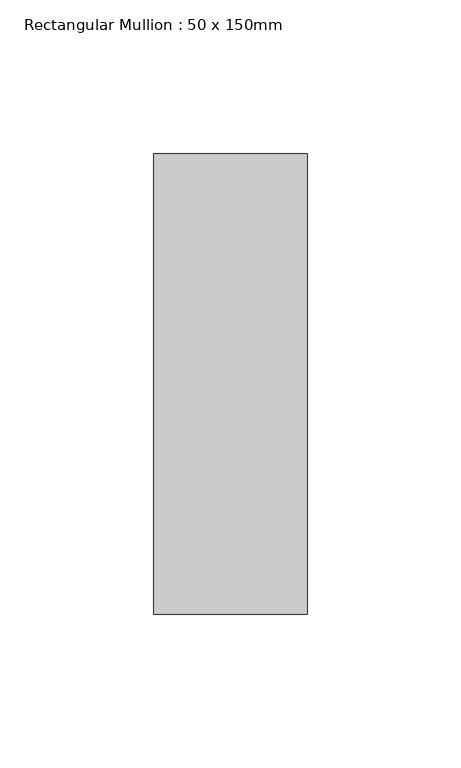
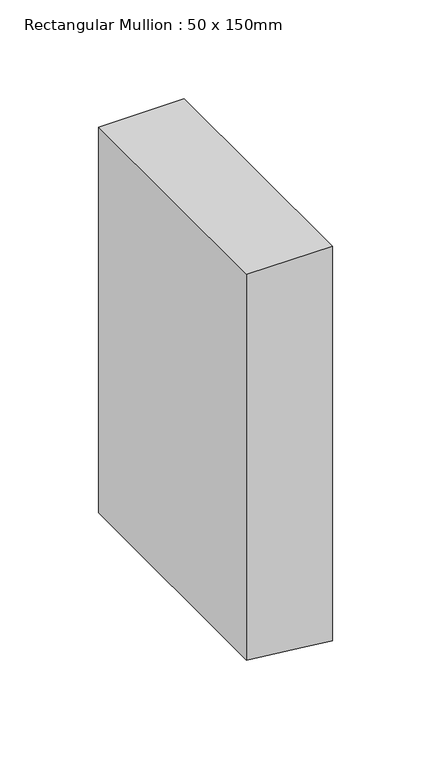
"""IFC4 building model written with IfcOpenShell, lengths in millimetres: member geometry, Rectangular Mullion : 50 x 150mm."""

from ifc_helpers import new_model, si_unit, frame, origin, place, context, project, spatial, polyline, outline, extrude, source, transform, mapped, element, save


def rectangular_mullion_50_x_150mm_b35b0433(model_context):
    return source(origin(), model_context, "Body", "SweptSolid", [
        extrude(outline(polyline([(0.0, 25.0), (0.0, -25.0), (-238.2593781, -25.0), (-241.7395374, 5.6423937), (-243.9380455, 25.0), (0.0, 25.0)])), frame((0.0, -75.0, 0.0), z_axis=(0.0, 1.0, 0.0), x_axis=(0.0, 0.0, 1.0)), (0.0, 0.0, 1.0), 150.0),
    ])


if __name__ == "__main__":
    model = new_model("IFC4")
    model_context = context("Model", 3, world=origin())
    ifc_project = project(units=[si_unit("LENGTHUNIT", "METRE", prefix="MILLI")], contexts=[model_context])
    site = spatial("IfcSite", under=ifc_project)
    building = spatial("IfcBuilding", under=site)
    placement = place(None, origin())
    rectangular_mullion_50_x_150mm_shape = rectangular_mullion_50_x_150mm_b35b0433(model_context)
    element("IfcMember", 1, ObjectType="Rectangular Mullion : 50 x 150mm", at=placement, inside=building, context=model_context, shape_type="MappedRepresentation", body=[
        mapped(rectangular_mullion_50_x_150mm_shape, transform((0.0, 0.0, 0.0), x_axis=(1.0, 0.0, 0.0), y_axis=(0.0, 1.0, 0.0), z_axis=(0.0, 0.0, 1.0))),
    ])
    save(model, "model.ifc")
